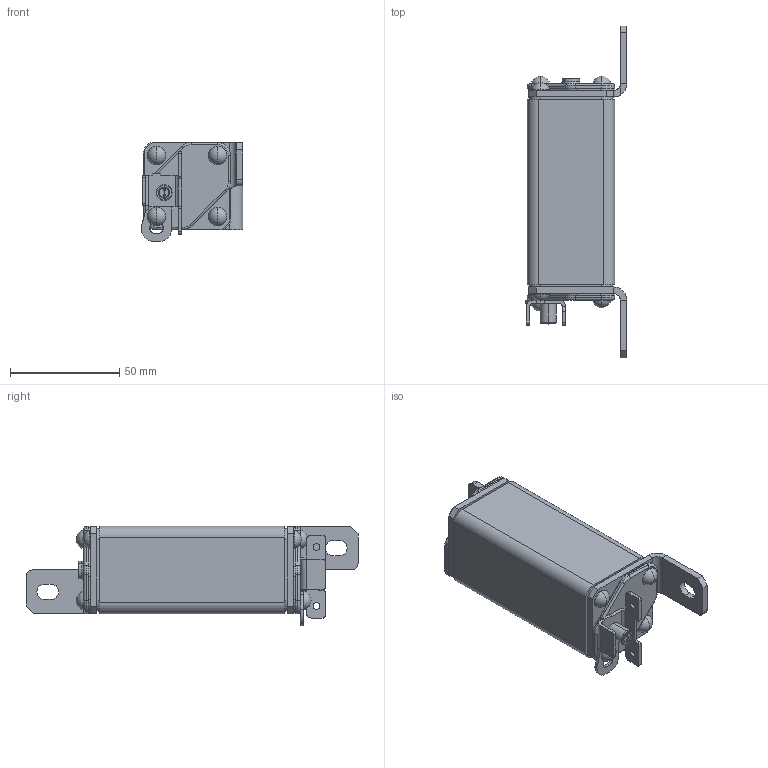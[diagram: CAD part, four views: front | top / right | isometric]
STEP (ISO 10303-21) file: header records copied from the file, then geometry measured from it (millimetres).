
FILE_DESCRIPTION (( 'STEP AP214' ), '1' );
FILE_NAME ('砎槼隰譇膻蠈錪 珫57-31672-XXXA-XXXX-忡曖.STEP', '2023-05-11T11:10:44', ( '' ), ( '' ), 'SwSTEP 2.0', 'SolidWorks 2018', '' );
FILE_SCHEMA (( 'AUTOMOTIVE_DESIGN' ));
Length unit declared in the file: millimetre
Products named in the file (1): 砎槼隰譇膻蠈錪 珫57-31672-XXXA-XXXX-忡曖
Bounding box: 46.48 x 152 x 45.5 mm (x, y, z)
Volume: 156166.4 mm3; surface area: 29616.8 mm2
Topology: 1 solids, 14 shells, 630 faces, 1574 edges, 968 vertices
Faces by surface type: plane 286, cylinder 236, torus 50, cone 42, sphere 16
Entity records: 19418 total; most frequent: CARTESIAN_POINT 4004, DIRECTION 3418, ORIENTED_EDGE 3100, EDGE_CURVE 1550, AXIS2_PLACEMENT_3D 1300, VERTEX_POINT 960, LINE 818, VECTOR 818
